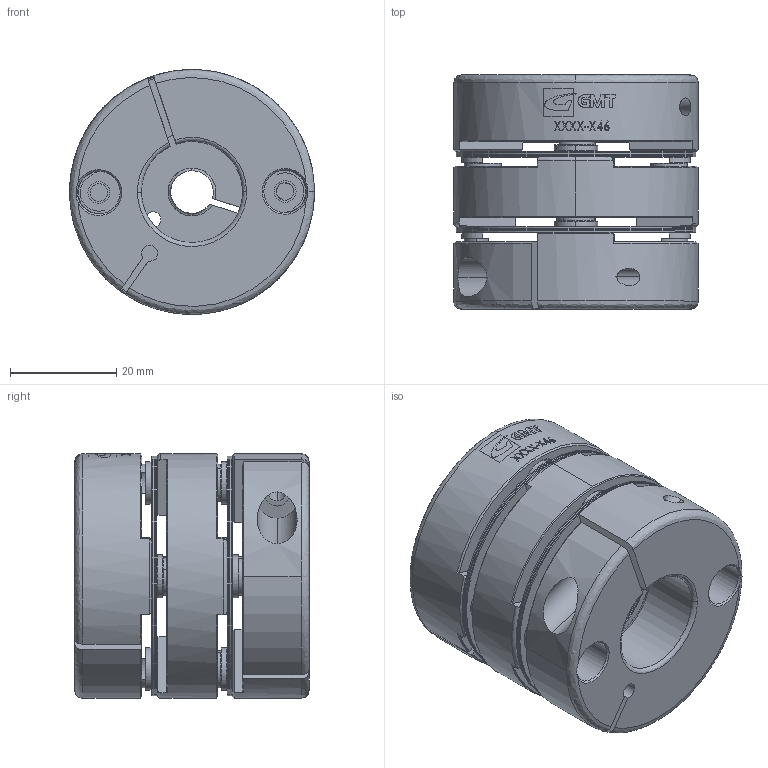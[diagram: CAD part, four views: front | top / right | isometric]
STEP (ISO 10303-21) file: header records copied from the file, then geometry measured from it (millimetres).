
FILE_DESCRIPTION (( 'STEP AP203' ), '1' );
FILE_NAME ('FACC-L46.STEP', '2008-04-06T02:05:54', ( '陳志豪' ), ( '高明鐵企業股份有限公司' ), 'SwSTEP 2.0', 'SolidWorks 2007', '' );
FILE_SCHEMA (( 'CONFIG_CONTROL_DESIGN' ));
Length unit declared in the file: millimetre
Products named in the file (1): FACC-L46
Bounding box: 46 x 44 x 46 mm (x, y, z)
Surface area: 22783.7 mm2 (no closed solid volume)
Topology: 0 solids, 35 shells, 270 faces, 1127 edges, 848 vertices
Faces by surface type: cylinder 102, plane 60, cone 60, bspline 48
Entity records: 14328 total; most frequent: CARTESIAN_POINT 5649, ORIENTED_EDGE 1649, DIRECTION 1646, EDGE_CURVE 1127, VERTEX_POINT 848, AXIS2_PLACEMENT_3D 632, CIRCLE 409, LINE 382
